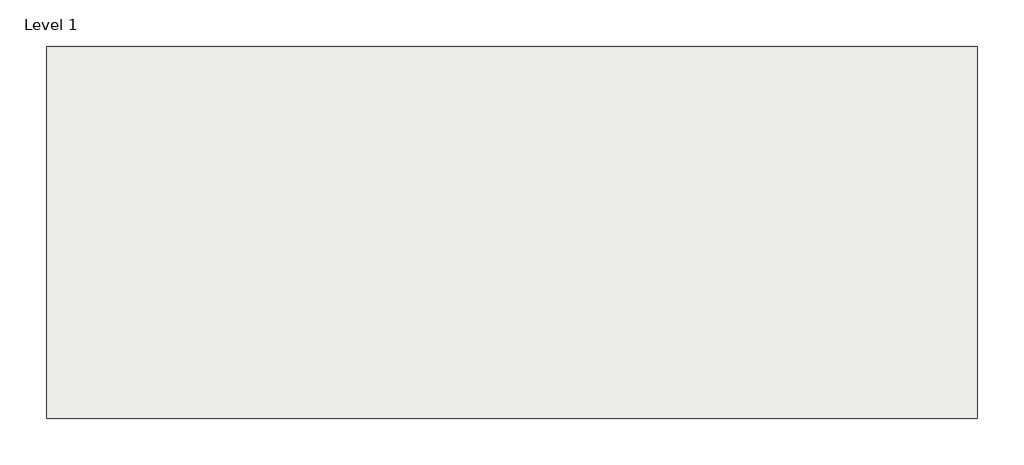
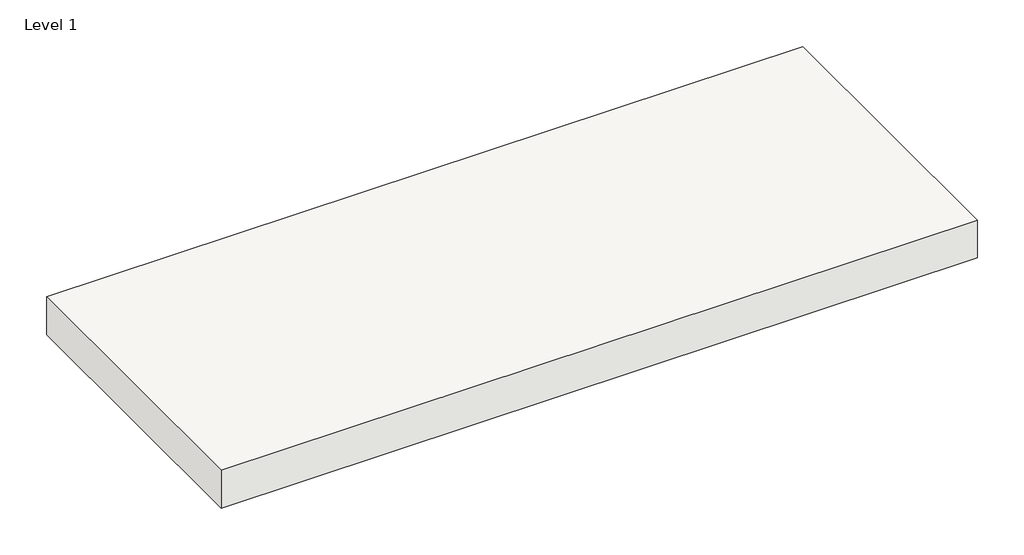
# One storey: 1 slab.
"""IFC4 building model written with IfcOpenShell, lengths in millimetres."""

import ifcopenshell
import ifcopenshell.guid

model = None  # the IFC model being written
_history = None  # IfcOwnerHistory: only IFC2X3 demands one
_inside = {}  # id of a spatial element -> (the spatial element, [elements in it])
_under = {}  # id of a project, library or spatial element -> (it, [spatial elements below it])
_declared = {}  # id of a project -> (the project, [libraries it declares])
_typed = {}  # id of a type object -> (the type object, [elements of that type])
_made_of = {}  # id of a material, layer set ... -> (it, [elements and type objects made of it])


def new_model(schema):
    """Start an empty IFC model of exactly this schema.

    Asked for "IFC4X3", IfcOpenShell would pick the latest addendum, in which some entities
    have other attributes; the version numbers below select the first issue.
    IFC2X3 requires an IfcOwnerHistory on every rooted entity: one is made here for all.
    """
    global model, _history
    if schema == "IFC4X3":
        model = ifcopenshell.file(schema_version=(4, 3, 0, 0))
    else:
        model = ifcopenshell.file(schema=schema)
    _inside.clear()
    _under.clear()
    _declared.clear()
    _typed.clear()
    _made_of.clear()
    _history = None
    if model.schema == "IFC2X3":
        org = make("IfcOrganization", Name="unknown")
        user = make(
            "IfcPersonAndOrganization",
            ThePerson=make("IfcPerson", FamilyName="unknown"),
            TheOrganization=org,
        )
        app = make(
            "IfcApplication",
            ApplicationDeveloper=org,
            Version="unknown",
            ApplicationFullName="unknown",
            ApplicationIdentifier="unknown",
        )
        _history = make(
            "IfcOwnerHistory",
            OwningUser=user,
            OwningApplication=app,
            ChangeAction="ADDED",
            CreationDate=0,
        )
    return model


def make(cls, **values):
    """One entity of the class cls with the attributes given. An attribute that is None is left unset."""
    return model.create_entity(
        cls, **{name: value for name, value in values.items() if value is not None}
    )


def rooted(cls, **values):
    """An entity with a GlobalId (a new one), such as an element, a storey or a relation."""
    return make(cls, GlobalId=ifcopenshell.guid.new(), OwnerHistory=_history, **values)


def si_unit(unit_type, name, prefix=None):
    """IfcSIUnit, for example si_unit("LENGTHUNIT", "METRE", prefix="MILLI")."""
    return make("IfcSIUnit", UnitType=unit_type, Prefix=prefix, Name=name)


def assignment(units):
    """IfcUnitAssignment: the units of a project."""
    return None if units is None else make("IfcUnitAssignment", Units=units)


def point(xyz):
    """IfcCartesianPoint."""
    return None if xyz is None else make("IfcCartesianPoint", Coordinates=xyz)


def direction(xyz):
    """IfcDirection."""
    return None if xyz is None else make("IfcDirection", DirectionRatios=xyz)


def frame(location, z_axis=None, x_axis=None):
    """IfcAxis2Placement3D, a coordinate frame: its origin and axes. An axis left out is left unset."""
    return make(
        "IfcAxis2Placement3D",
        Location=point(location),
        Axis=direction(z_axis),
        RefDirection=direction(x_axis),
    )


def origin():
    """The frame at (0, 0, 0) with its axes left unset."""
    return frame((0.0, 0.0, 0.0))


def place(relative_to, where):
    """IfcLocalPlacement: puts the frame where relative to a parent placement (None: the world)."""
    return make(
        "IfcLocalPlacement", PlacementRelTo=relative_to, RelativePlacement=where
    )


def context(
    kind, dimensions, precision=None, world=None, true_north=None, identifier=None
):
    """IfcGeometricRepresentationContext, for example the 3D "Model" context."""
    return make(
        "IfcGeometricRepresentationContext",
        ContextIdentifier=identifier,
        ContextType=kind,
        CoordinateSpaceDimension=dimensions,
        Precision=precision,
        WorldCoordinateSystem=world,
        TrueNorth=true_north,
    )


def project(units=None, contexts=None):
    """IfcProject with its units and contexts."""
    return rooted(
        "IfcProject",
        Name="project",
        RepresentationContexts=contexts,
        UnitsInContext=assignment(units),
    )


def spatial(cls, under=None, at=None, **own):
    """A site, building, storey or space (cls), placed at a placement, below another one or the project."""
    s = rooted(cls, ObjectPlacement=at, **own)
    if under is not None:
        _under.setdefault(under.id(), (under, []))[1].append(s)
    return s


def polyline(points):
    """IfcPolyline through the points."""
    return make("IfcPolyline", Points=[point(p) for p in points])


def outline(outer, holes=None, kind="AREA"):
    """IfcArbitraryClosedProfileDef: a profile drawn as a closed curve; with holes, ...WithVoids."""
    if holes is None:
        return make("IfcArbitraryClosedProfileDef", ProfileType=kind, OuterCurve=outer)
    return make(
        "IfcArbitraryProfileDefWithVoids",
        ProfileType=kind,
        OuterCurve=outer,
        InnerCurves=holes,
    )


def extrude(swept, where, along, depth):
    """IfcExtrudedAreaSolid: the profile swept, set in the frame where, extruded along a direction by depth."""
    return make(
        "IfcExtrudedAreaSolid",
        SweptArea=swept,
        Position=where,
        ExtrudedDirection=direction(along),
        Depth=depth,
    )


def shape(context_of_items, identifier, shape_type, items):
    """IfcShapeRepresentation: the items that make up one representation, for example the "Body"."""
    return make(
        "IfcShapeRepresentation",
        ContextOfItems=context_of_items,
        RepresentationIdentifier=identifier,
        RepresentationType=shape_type,
        Items=items,
    )


def made_of(thing, what):
    """Note that an element or type object is made of a material, layer set ...; save() writes the relation."""
    if what is not None:
        _made_of.setdefault(what.id(), (what, []))[1].append(thing)
    return thing


def element(
    cls,
    number,
    at=None,
    inside=None,
    cuts=None,
    type_object=None,
    material=None,
    context=None,
    identifier="Body",
    shape_type=None,
    held_by="IfcProductDefinitionShape",
    body=None,
    shapes=None,
    **own,
):
    """One element of the class cls, such as IfcWall. Its Tag is "e" and its number.

    at: its placement. inside: the storey or other place that contains it. cuts: it is an
    opening in that element (IfcRelVoidsElement). A single representation is given by context,
    identifier, shape_type and body (its items); several are given by shapes. held_by: the class
    of the entity that holds the representations. save() writes the other relations.
    """
    e = rooted(cls, Tag="e%d" % number, ObjectPlacement=at, **own)
    if body is not None:
        shapes = [shape(context, identifier, shape_type, body)]
    if shapes is not None:
        e.Representation = make(held_by, Representations=shapes)
    if inside is not None:
        _inside.setdefault(inside.id(), (inside, []))[1].append(e)
    if cuts is not None:
        rooted(
            "IfcRelVoidsElement", RelatingBuildingElement=cuts, RelatedOpeningElement=e
        )
    if type_object is not None:
        _typed.setdefault(type_object.id(), (type_object, []))[1].append(e)
    return made_of(e, material)


def aggregate(whole, parts):
    """IfcRelAggregates: a whole, such as a stair, and the parts it consists of."""
    return rooted("IfcRelAggregates", RelatingObject=whole, RelatedObjects=parts)


def save(model, path):
    """Write the relations noted so far, then the file.

    IfcRelAggregates (storeys below a building ...), IfcRelContainedInSpatialStructure (elements
    in a storey), IfcRelDefinesByType, IfcRelAssociatesMaterial and IfcRelDeclares: one each for
    every whole, place, type object, material and project.
    """
    for whole, parts in _under.values():
        aggregate(whole, parts)
    for where, things in _inside.values():
        rooted(
            "IfcRelContainedInSpatialStructure",
            RelatedElements=things,
            RelatingStructure=where,
        )
    for kind, things in _typed.values():
        rooted("IfcRelDefinesByType", RelatedObjects=things, RelatingType=kind)
    for what, things in _made_of.values():
        rooted("IfcRelAssociatesMaterial", RelatedObjects=things, RelatingMaterial=what)
    for by, libraries in _declared.values():
        rooted("IfcRelDeclares", RelatingContext=by, RelatedDefinitions=libraries)
    model.write(path)


model = new_model("IFC4")

# Units and contexts
model_context = context("Model", 3, world=origin())
ifc_project = project(units=[si_unit("LENGTHUNIT", "METRE", prefix="MILLI")], contexts=[model_context])

# Site, building, storey
site = spatial("IfcSite", under=ifc_project)
building = spatial("IfcBuilding", under=site)
storey = spatial("IfcBuildingStorey", under=building, Name="Level 1", Elevation=0.0)

# Slab
placement = place(None, origin())
element("IfcSlab", 1, ObjectType="ENV7.5", at=placement, inside=storey, context=model_context, shape_type="SweptSolid", body=[
    extrude(outline(polyline([(5506.4279261, 3831.5926078), (5506.4279261, 2002.7926078), (934.4279261, 2002.7926078), (934.4279261, 3831.5926078), (5506.4279261, 3831.5926078)])), frame((0.0, 0.0, -241.3), z_axis=(0.0, 0.0, 1.0), x_axis=(1.0, 0.0, 0.0)), (0.0, 0.0, 1.0), 241.3),
])

save(model, "model.ifc")
